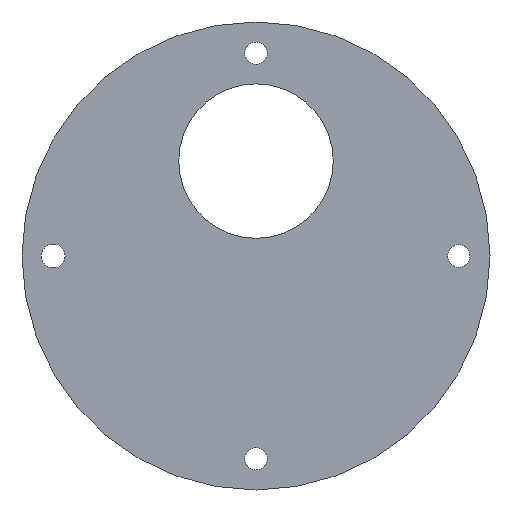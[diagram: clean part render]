
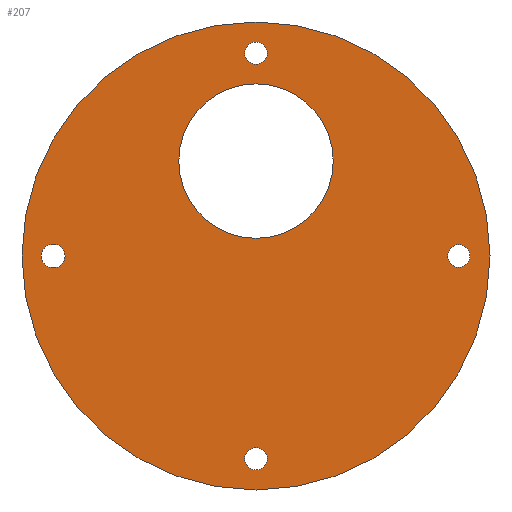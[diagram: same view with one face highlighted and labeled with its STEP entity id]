
A CAD part, front view. The second image highlights one B-rep face of the part: STEP entity #207.
In plain terms, the highlighted planar face has unit normal (0, -1, 0).
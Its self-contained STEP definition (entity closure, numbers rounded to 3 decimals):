
#50=FACE_BOUND('',#74,.T.);
#51=FACE_BOUND('',#75,.T.);
#52=FACE_BOUND('',#76,.T.);
#53=FACE_BOUND('',#77,.T.);
#54=FACE_BOUND('',#78,.T.);
#56=FACE_OUTER_BOUND('',#73,.T.);
#73=EDGE_LOOP('',(#156));
#74=EDGE_LOOP('',(#157));
#75=EDGE_LOOP('',(#158));
#76=EDGE_LOOP('',(#159));
#77=EDGE_LOOP('',(#160));
#78=EDGE_LOOP('',(#161));
#95=CIRCLE('',#240,45.);
#96=CIRCLE('',#241,14.85);
#97=CIRCLE('',#242,2.273);
#98=CIRCLE('',#243,2.153);
#99=CIRCLE('',#244,2.153);
#100=CIRCLE('',#245,2.153);
#112=VERTEX_POINT('',#346);
#113=VERTEX_POINT('',#348);
#114=VERTEX_POINT('',#350);
#115=VERTEX_POINT('',#352);
#116=VERTEX_POINT('',#354);
#117=VERTEX_POINT('',#356);
#129=EDGE_CURVE('',#112,#112,#95,.T.);
#130=EDGE_CURVE('',#113,#113,#96,.T.);
#131=EDGE_CURVE('',#114,#114,#97,.T.);
#132=EDGE_CURVE('',#115,#115,#98,.T.);
#133=EDGE_CURVE('',#116,#116,#99,.T.);
#134=EDGE_CURVE('',#117,#117,#100,.T.);
#156=ORIENTED_EDGE('',*,*,#129,.F.);
#157=ORIENTED_EDGE('',*,*,#130,.T.);
#158=ORIENTED_EDGE('',*,*,#131,.T.);
#159=ORIENTED_EDGE('',*,*,#132,.T.);
#160=ORIENTED_EDGE('',*,*,#133,.T.);
#161=ORIENTED_EDGE('',*,*,#134,.T.);
#205=PLANE('',#239);
#207=ADVANCED_FACE('',(#56,#50,#51,#52,#53,#54),#205,.F.);
#239=AXIS2_PLACEMENT_3D('',#345,#277,#278);
#240=AXIS2_PLACEMENT_3D('',#347,#279,#280);
#241=AXIS2_PLACEMENT_3D('',#349,#281,#282);
#242=AXIS2_PLACEMENT_3D('',#351,#283,#284);
#243=AXIS2_PLACEMENT_3D('',#353,#285,#286);
#244=AXIS2_PLACEMENT_3D('',#355,#287,#288);
#245=AXIS2_PLACEMENT_3D('',#357,#289,#290);
#277=DIRECTION('center_axis',(0.,1.,0.));
#278=DIRECTION('ref_axis',(0.,0.,1.));
#279=DIRECTION('center_axis',(0.,1.,0.));
#280=DIRECTION('ref_axis',(0.,0.,1.));
#281=DIRECTION('center_axis',(0.,1.,0.));
#282=DIRECTION('ref_axis',(0.,0.,1.));
#283=DIRECTION('center_axis',(0.,1.,0.));
#284=DIRECTION('ref_axis',(0.,0.,1.));
#285=DIRECTION('center_axis',(0.,1.,0.));
#286=DIRECTION('ref_axis',(0.,0.,1.));
#287=DIRECTION('center_axis',(0.,1.,0.));
#288=DIRECTION('ref_axis',(0.,0.,1.));
#289=DIRECTION('center_axis',(0.,1.,0.));
#290=DIRECTION('ref_axis',(0.,0.,1.));
#345=CARTESIAN_POINT('Origin',(0.,0.,-18.25));
#346=CARTESIAN_POINT('',(0.,0.,26.75));
#347=CARTESIAN_POINT('Origin',(0.,0.,-18.25));
#348=CARTESIAN_POINT('',(0.,0.,14.85));
#349=CARTESIAN_POINT('Origin',(0.,0.,0.));
#350=CARTESIAN_POINT('',(-39.,0.,-15.977));
#351=CARTESIAN_POINT('Origin',(-39.,0.,-18.25));
#352=CARTESIAN_POINT('',(0.,0.,-59.403));
#353=CARTESIAN_POINT('Origin',(0.,0.,-57.25));
#354=CARTESIAN_POINT('',(39.,0.,-20.403));
#355=CARTESIAN_POINT('Origin',(39.,0.,-18.25));
#356=CARTESIAN_POINT('',(0.,0.,18.597));
#357=CARTESIAN_POINT('Origin',(0.,0.,20.75));
